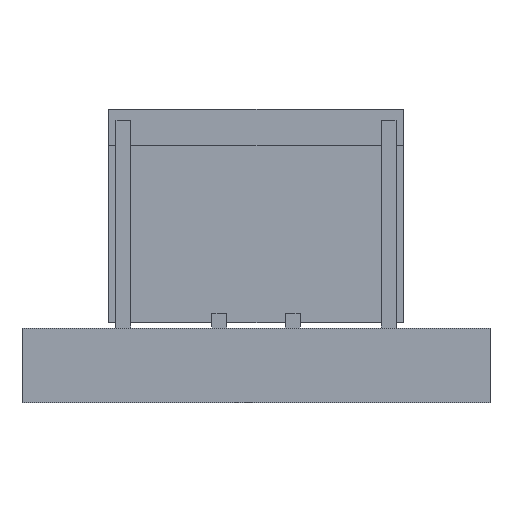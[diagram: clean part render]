
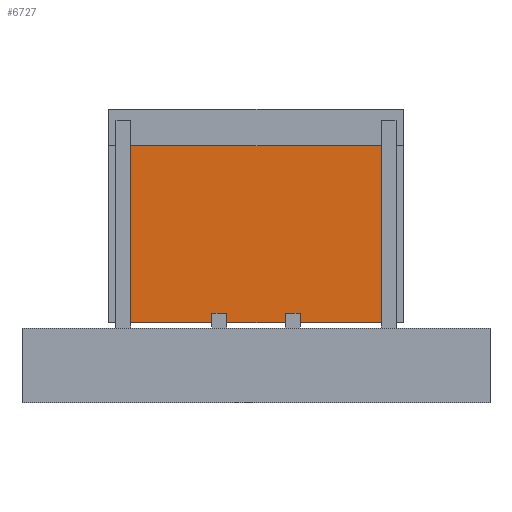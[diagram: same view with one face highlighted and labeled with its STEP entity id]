
A CAD part, front view. The second image highlights one B-rep face of the part: STEP entity #6727.
In plain terms, the highlighted planar face has unit normal (0, -1, 0).
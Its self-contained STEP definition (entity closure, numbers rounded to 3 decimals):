
#210 = EDGE_CURVE ( 'NONE', #1023, #12239, #18261, .T. ) ;
#425 = VECTOR ( 'NONE', #7042, 1000. ) ;
#1023 = VERTEX_POINT ( 'NONE', #6480 ) ;
#1248 = ORIENTED_EDGE ( 'NONE', *, *, #18095, .F. ) ;
#1310 = VERTEX_POINT ( 'NONE', #16533 ) ;
#1909 = DIRECTION ( 'NONE',  ( 1., 0., 0. ) ) ;
#1971 = FACE_OUTER_BOUND ( 'NONE', #15612, .T. ) ;
#2000 = CARTESIAN_POINT ( 'NONE',  ( 2.775, 5.368, 1.216 ) ) ;
#2260 = DIRECTION ( 'NONE',  ( 0., 0., -1. ) ) ;
#2400 = CARTESIAN_POINT ( 'NONE',  ( 5.175, 5.368, 3.986 ) ) ;
#2411 = ORIENTED_EDGE ( 'NONE', *, *, #2676, .F. ) ;
#2676 = EDGE_CURVE ( 'NONE', #8630, #18449, #6924, .T. ) ;
#2708 = LINE ( 'NONE', #11154, #20161 ) ;
#2729 = CARTESIAN_POINT ( 'NONE',  ( 5.175, 5.368, 1.086 ) ) ;
#2878 = EDGE_CURVE ( 'NONE', #26581, #6370, #25353, .T. ) ;
#4228 = LINE ( 'NONE', #25334, #9785 ) ;
#4625 = DIRECTION ( 'NONE',  ( 0., 0., -1. ) ) ;
#4995 = CARTESIAN_POINT ( 'NONE',  ( 3.775, 5.368, 1.216 ) ) ;
#5423 = LINE ( 'NONE', #13602, #24823 ) ;
#6342 = DIRECTION ( 'NONE',  ( 0., 0., -1. ) ) ;
#6370 = VERTEX_POINT ( 'NONE', #24606 ) ;
#6419 = VECTOR ( 'NONE', #10772, 1000. ) ;
#6480 = CARTESIAN_POINT ( 'NONE',  ( 2.575, 5.368, 1.216 ) ) ;
#6727 = ADVANCED_FACE ( 'NONE', ( #1971 ), #10400, .F. ) ;
#6924 = LINE ( 'NONE', #25791, #19431 ) ;
#7018 = DIRECTION ( 'NONE',  ( 1., 0., 0. ) ) ;
#7042 = DIRECTION ( 'NONE',  ( -1., 0., 0. ) ) ;
#7827 = EDGE_CURVE ( 'NONE', #8630, #10222, #12267, .T. ) ;
#8208 = ORIENTED_EDGE ( 'NONE', *, *, #9587, .T. ) ;
#8418 = CARTESIAN_POINT ( 'NONE',  ( 1.475, 5.368, 1.086 ) ) ;
#8562 = ORIENTED_EDGE ( 'NONE', *, *, #12798, .T. ) ;
#8630 = VERTEX_POINT ( 'NONE', #4995 ) ;
#8725 = VERTEX_POINT ( 'NONE', #26922 ) ;
#8994 = LINE ( 'NONE', #17244, #425 ) ;
#9483 = DIRECTION ( 'NONE',  ( -1., 0., 0. ) ) ;
#9528 = EDGE_CURVE ( 'NONE', #8725, #19213, #15160, .T. ) ;
#9587 = EDGE_CURVE ( 'NONE', #8725, #26581, #2708, .T. ) ;
#9606 = DIRECTION ( 'NONE',  ( 0., 0., -1. ) ) ;
#9785 = VECTOR ( 'NONE', #1909, 1000. ) ;
#10021 = CARTESIAN_POINT ( 'NONE',  ( 3.775, 5.368, 1.086 ) ) ;
#10222 = VERTEX_POINT ( 'NONE', #10021 ) ;
#10400 = PLANE ( 'NONE',  #12485 ) ;
#10760 = CARTESIAN_POINT ( 'NONE',  ( 3.575, 5.368, 1.216 ) ) ;
#10772 = DIRECTION ( 'NONE',  ( 0., 0., -1. ) ) ;
#10832 = DIRECTION ( 'NONE',  ( 0., 0., -1. ) ) ;
#11154 = CARTESIAN_POINT ( 'NONE',  ( 5.175, 5.368, 3.486 ) ) ;
#11388 = VERTEX_POINT ( 'NONE', #26143 ) ;
#11657 = VECTOR ( 'NONE', #24618, 1000. ) ;
#11798 = DIRECTION ( 'NONE',  ( 1., 0., 0. ) ) ;
#11852 = EDGE_CURVE ( 'NONE', #6370, #12239, #4228, .T. ) ;
#12239 = VERTEX_POINT ( 'NONE', #13345 ) ;
#12267 = LINE ( 'NONE', #21211, #6419 ) ;
#12485 = AXIS2_PLACEMENT_3D ( 'NONE', #2400, #13446, #10832 ) ;
#12754 = LINE ( 'NONE', #21131, #26779 ) ;
#12798 = EDGE_CURVE ( 'NONE', #1310, #11388, #15602, .T. ) ;
#13345 = CARTESIAN_POINT ( 'NONE',  ( 2.575, 5.368, 1.086 ) ) ;
#13446 = DIRECTION ( 'NONE',  ( 0., 1., 0. ) ) ;
#13602 = CARTESIAN_POINT ( 'NONE',  ( 5.175, 5.368, 1.086 ) ) ;
#14589 = LINE ( 'NONE', #20626, #11657 ) ;
#15160 = LINE ( 'NONE', #17330, #24956 ) ;
#15368 = DIRECTION ( 'NONE',  ( -1., 0., 0. ) ) ;
#15602 = LINE ( 'NONE', #2729, #26933 ) ;
#15612 = EDGE_LOOP ( 'NONE', ( #2411, #19829, #17109, #24370, #8208, #22179, #21738, #16983, #1248, #25336, #8562, #16713 ) ) ;
#16533 = CARTESIAN_POINT ( 'NONE',  ( 2.775, 5.368, 1.086 ) ) ;
#16713 = ORIENTED_EDGE ( 'NONE', *, *, #24138, .F. ) ;
#16983 = ORIENTED_EDGE ( 'NONE', *, *, #210, .F. ) ;
#17109 = ORIENTED_EDGE ( 'NONE', *, *, #23053, .T. ) ;
#17244 = CARTESIAN_POINT ( 'NONE',  ( 2.775, 5.368, 1.216 ) ) ;
#17330 = CARTESIAN_POINT ( 'NONE',  ( 4.875, 5.368, 1.086 ) ) ;
#18095 = EDGE_CURVE ( 'NONE', #18612, #1023, #8994, .T. ) ;
#18261 = LINE ( 'NONE', #24443, #18979 ) ;
#18449 = VERTEX_POINT ( 'NONE', #10760 ) ;
#18612 = VERTEX_POINT ( 'NONE', #2000 ) ;
#18979 = VECTOR ( 'NONE', #9606, 1000. ) ;
#19213 = VERTEX_POINT ( 'NONE', #23228 ) ;
#19431 = VECTOR ( 'NONE', #15368, 1000. ) ;
#19829 = ORIENTED_EDGE ( 'NONE', *, *, #7827, .T. ) ;
#20161 = VECTOR ( 'NONE', #9483, 1000. ) ;
#20626 = CARTESIAN_POINT ( 'NONE',  ( 2.775, 5.368, 1.086 ) ) ;
#21131 = CARTESIAN_POINT ( 'NONE',  ( 3.575, 5.368, 1.086 ) ) ;
#21211 = CARTESIAN_POINT ( 'NONE',  ( 3.775, 5.368, 1.086 ) ) ;
#21738 = ORIENTED_EDGE ( 'NONE', *, *, #11852, .T. ) ;
#22179 = ORIENTED_EDGE ( 'NONE', *, *, #2878, .T. ) ;
#22498 = VECTOR ( 'NONE', #6342, 1000. ) ;
#23053 = EDGE_CURVE ( 'NONE', #10222, #19213, #5423, .T. ) ;
#23228 = CARTESIAN_POINT ( 'NONE',  ( 4.875, 5.368, 1.086 ) ) ;
#23495 = CARTESIAN_POINT ( 'NONE',  ( 1.475, 5.368, 3.486 ) ) ;
#24138 = EDGE_CURVE ( 'NONE', #18449, #11388, #12754, .T. ) ;
#24370 = ORIENTED_EDGE ( 'NONE', *, *, #9528, .F. ) ;
#24443 = CARTESIAN_POINT ( 'NONE',  ( 2.575, 5.368, 1.086 ) ) ;
#24606 = CARTESIAN_POINT ( 'NONE',  ( 1.475, 5.368, 1.086 ) ) ;
#24618 = DIRECTION ( 'NONE',  ( 0., 0., -1. ) ) ;
#24823 = VECTOR ( 'NONE', #11798, 1000. ) ;
#24956 = VECTOR ( 'NONE', #4625, 1000. ) ;
#25334 = CARTESIAN_POINT ( 'NONE',  ( 5.175, 5.368, 1.086 ) ) ;
#25336 = ORIENTED_EDGE ( 'NONE', *, *, #26465, .T. ) ;
#25353 = LINE ( 'NONE', #8418, #22498 ) ;
#25791 = CARTESIAN_POINT ( 'NONE',  ( 3.775, 5.368, 1.216 ) ) ;
#26143 = CARTESIAN_POINT ( 'NONE',  ( 3.575, 5.368, 1.086 ) ) ;
#26465 = EDGE_CURVE ( 'NONE', #18612, #1310, #14589, .T. ) ;
#26581 = VERTEX_POINT ( 'NONE', #23495 ) ;
#26779 = VECTOR ( 'NONE', #2260, 1000. ) ;
#26922 = CARTESIAN_POINT ( 'NONE',  ( 4.875, 5.368, 3.486 ) ) ;
#26933 = VECTOR ( 'NONE', #7018, 1000. ) ;
